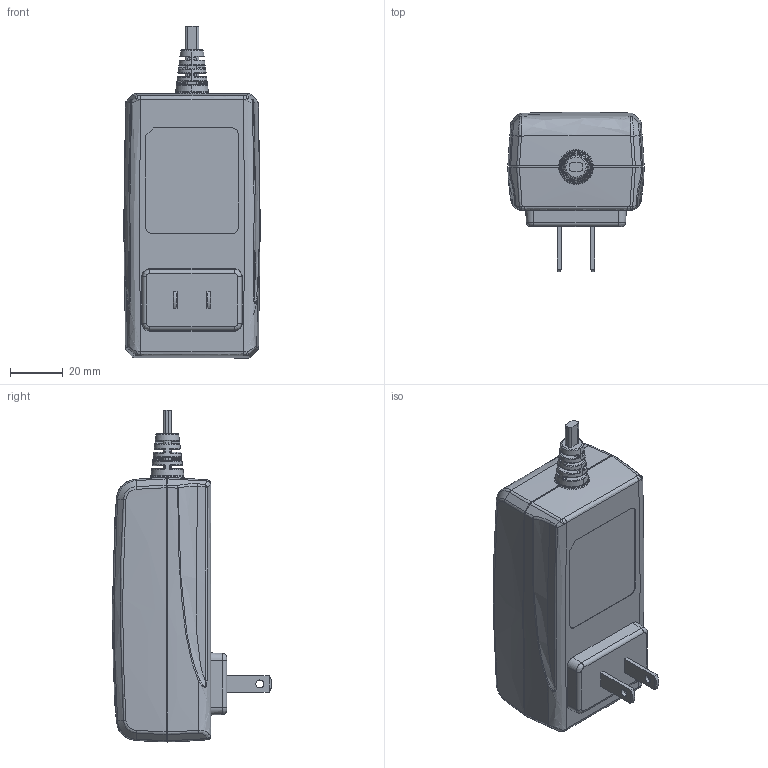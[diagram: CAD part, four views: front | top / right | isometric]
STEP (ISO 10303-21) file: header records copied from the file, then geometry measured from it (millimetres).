
FILE_DESCRIPTION(/* description */ (''),/* implementation_level */ '2;1');
FILE_NAME(/* name */ 'TP7-美規',/* time_stamp */ '2015-03-02T17:50:18+08:00',/* author */ (''),/* organization */ (''),/* preprocessor_version */ 'ST-DEVELOPER v15',/* originating_system */ '',/* authorisation */ '');
FILE_SCHEMA (('AUTOMOTIVE_DESIGN_CC2'));
Length unit declared in the file: millimetre
Products named in the file (1): Document
Bounding box: 51.56 x 60.19 x 125.42 mm (x, y, z)
Volume: 1568.1 mm3; surface area: 31751.4 mm2
Topology: 1 solids, 9 shells, 554 faces, 1436 edges, 902 vertices
Faces by surface type: bspline 554
Entity records: 116853 total; most frequent: CARTESIAN_POINT 98640, B_SPLINE_CURVE_WITH_KNOTS 3827, ORIENTED_EDGE 2807, PCURVE 2807, DEFINITIONAL_REPRESENTATION 2807, SURFACE_CURVE 1426, EDGE_CURVE 1426, VERTEX_POINT 902
